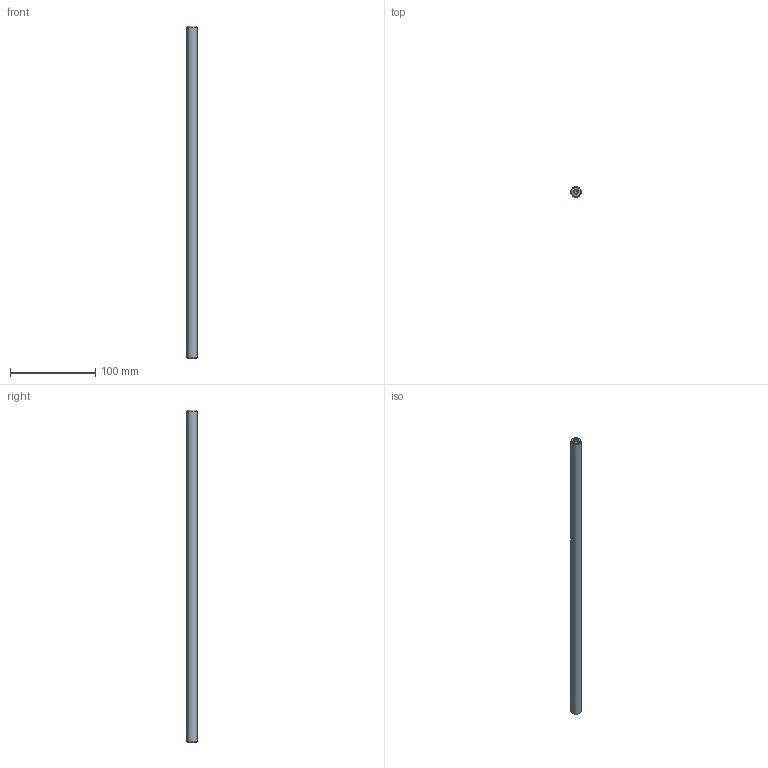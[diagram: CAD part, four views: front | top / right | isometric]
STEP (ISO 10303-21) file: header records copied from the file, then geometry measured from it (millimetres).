
FILE_DESCRIPTION( ( 'STEP AP214' ), '1' );
FILE_NAME( 'U:/Etudes/Top Solid/BIBLIO_Fournisseur/Colonnes UG/Ø12x389.step', '2004-12-22T12:35:17', ( ' ' ), ( ' ' ), 'XStep 1.0', ' ', ' ' );
FILE_SCHEMA( ( 'automotive_design' ) );
Length unit declared in the file: metre
Products named in the file (1): 1
Bounding box: 12 x 12 x 389 mm (x, y, z)
Volume: 43482.7 mm3; surface area: 15272 mm2
Topology: 1 solids, 1 shells, 13 faces, 27 edges, 16 vertices
Faces by surface type: cone 6, cylinder 5, plane 2
Full cylindrical faces by diameter (mm): 4.134 x2, 4.918 x2, 12 x1
Entity records: 382 total; most frequent: DIRECTION 52, CARTESIAN_POINT 40, AXIS2_PLACEMENT_3D 26, EDGE_LOOP 24, ORIENTED_EDGE 24, FACE_OUTER_BOUND 18, VERTEX_POINT 14, STYLED_ITEM 13
